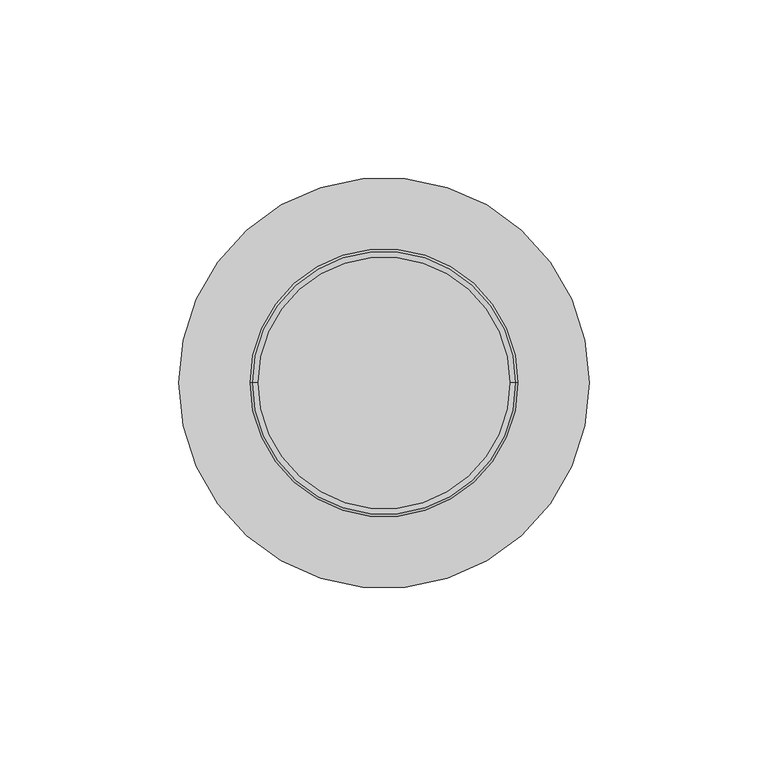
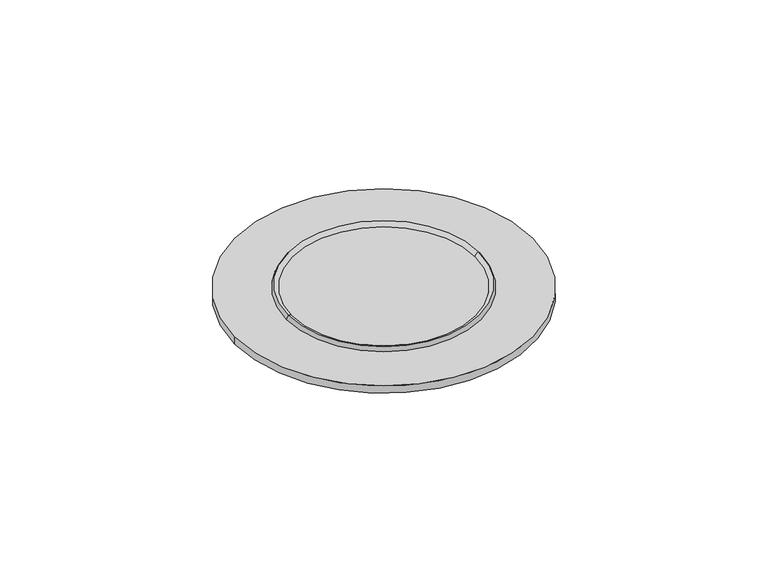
"""IFC4 building model written with IfcOpenShell, lengths in millimetres: light fixture geometry, TECNOLINE-LÁMPARA DE INTERIOR-DOWNLIGHT EMPOTRADA : TECNOLINE-LÁMPARA DE INTERIOR-DOWNLIGHT EMPOTRADA."""

from ifc_helpers import new_model, si_unit, point, frame, origin, origin_with_axes, origin_2d, place, context, project, spatial, circle_curve, ellipse_curve, trimmed, segment, composite_curve, outline, extrude, source, transform, mapped, element, save
from ifc_brep_helpers import plane_surface, revolved_surface, advanced_brep


def light_fixture_93f22e3d(model_context):
    return source(origin(), model_context, "Body", "SolidModel", [
        extrude(outline(composite_curve([segment(trimmed(circle_curve(origin_2d(), 35.2648499), [point((-35.2648499, 0.0))], [point((35.2648499, 0.0))], False, "CARTESIAN"), True, "CONTINUOUS"), segment(trimmed(circle_curve(origin_2d(), 35.2648499), [point((35.2648499, 0.0))], [point((-35.2648499, 0.0))], False, "CARTESIAN"), True, "CONTINUOUS")], self_intersect=False)), frame((0.0, 0.0, 2.410224), z_axis=(0.0, 0.0, 1.0), x_axis=(1.0, 0.0, 0.0)), (0.0, 0.0, 1.0), 0.589776),
        advanced_brep(
        [(35.2648499, 0.0, 3.0), (-35.2648499, 0.0, 3.0), (-36.789189, 0.0, 4.5243391), (36.789189, 0.0, 4.5243391), (-37.5, 0.0, 3.0), (37.5, 0.0, 3.0)],
        [
            (0, 1, circle_curve(frame((0.0, 0.0, 3.0), z_axis=(0.0, 0.0, -1.0), x_axis=(-1.0, 0.0, 0.0)), 35.2648499)),
            (1, 2, circle_curve(frame((-36.789189, 0.0, 3.0), z_axis=(0.0, -1.0, 0.0), x_axis=(-1.0, 0.0, 0.0)), 1.5243391)),
            (2, 3, circle_curve(frame((0.0, 0.0, 4.5243391), z_axis=(0.0, 0.0, 1.0), x_axis=(-1.0, 0.0, 0.0)), 36.789189)),
            (3, 0, circle_curve(frame((36.789189, 0.0, 3.0), z_axis=(0.0, -1.0, 0.0), x_axis=(1.0, 0.0, 0.0)), 1.5243391)),
            (2, 4, circle_curve(frame((-33.8657268, 0.0, 2.2332084), z_axis=(0.0, -1.0, 0.0), x_axis=(-1.0, 0.0, 0.0)), 3.7142847)),
            (4, 5, circle_curve(frame((0.0, 0.0, 3.0), z_axis=(0.0, 0.0, 1.0), x_axis=(-1.0, 0.0, 0.0)), 37.5)),
            (5, 3, circle_curve(frame((33.8657268, 0.0, 2.2332084), z_axis=(0.0, -1.0, 0.0), x_axis=(1.0, 0.0, 0.0)), 3.7142847)),
            (1, 0, circle_curve(frame((0.0, 0.0, 3.0), z_axis=(0.0, 0.0, -1.0), x_axis=(1.0, 0.0, 0.0)), 35.2648499)),
            (3, 2, circle_curve(frame((0.0, 0.0, 4.5243391), z_axis=(0.0, 0.0, 1.0), x_axis=(1.0, 0.0, 0.0)), 36.789189)),
            (4, 5, circle_curve(frame((0.0, 0.0, 3.0), z_axis=(0.0, 0.0, -1.0), x_axis=(1.0, 0.0, 0.0)), 37.5)),
        ],
        [
            revolved_surface(trimmed(ellipse_curve(frame((-36.789189, 0.0, 3.0), z_axis=(0.0, 1.0, 0.0), x_axis=(-1.0, 0.0, 0.0)), 1.5243391, 1.5243391), [point((-36.789189, 0.0, 4.5243391))], [point((-35.2648499, 0.0, 3.0))], True, "CARTESIAN"), (0.0, 0.0, 3.0), (0.0, 0.0, 1.0)),
            revolved_surface(trimmed(ellipse_curve(frame((-33.8657268, 0.0, 2.2332084), z_axis=(0.0, 1.0, 0.0), x_axis=(-1.0, 0.0, 0.0)), 3.7142847, 3.7142847), [point((-37.5, 0.0, 3.0))], [point((-36.789189, 0.0, 4.5243391))], True, "CARTESIAN"), (0.0, 0.0, 3.0), (0.0, 0.0, 1.0)),
            revolved_surface(trimmed(ellipse_curve(frame((36.789189, 0.0, 3.0), z_axis=(0.0, -1.0, 0.0), x_axis=(1.0, 0.0, 0.0)), 1.5243391, 1.5243391), [point((36.789189, 0.0, 4.5243391))], [point((35.2648499, 0.0, 3.0))], True, "CARTESIAN"), (0.0, 0.0, 3.0), (0.0, 0.0, 1.0)),
            plane_surface(frame((0.0, 0.0, 3.0), z_axis=(0.0, 0.0, -1.0), x_axis=(1.0, 0.0, 0.0))),
            revolved_surface(trimmed(ellipse_curve(frame((33.8657268, 0.0, 2.2332084), z_axis=(0.0, -1.0, 0.0), x_axis=(1.0, 0.0, 0.0)), 3.7142847, 3.7142847), [point((37.5, 0.0, 3.0))], [point((36.789189, 0.0, 4.5243391))], True, "CARTESIAN"), (0.0, 0.0, 3.0), (0.0, 0.0, 1.0)),
        ],
        [
            (0, [[1, 2, 3, 4]]),
            (1, [[-3, 5, 6, 7]]),
            (2, [[8, -4, 9, -2]]),
            (3, [[10, -6], [-8, -1]]),
            (4, [[-9, -7, -10, -5]]),
        ],
    ),
        extrude(outline(composite_curve([segment(trimmed(circle_curve(origin_2d(), 57.5), [point((-57.5, 0.0))], [point((57.5, 0.0))], False, "CARTESIAN"), True, "CONTINUOUS"), segment(trimmed(circle_curve(origin_2d(), 57.5), [point((57.5, 0.0))], [point((-57.5, 0.0))], False, "CARTESIAN"), True, "CONTINUOUS")], self_intersect=False), holes=[composite_curve([segment(trimmed(circle_curve(origin_2d(), 37.5), [point((-37.5, 0.0))], [point((37.5, 0.0))], True, "CARTESIAN"), True, "CONTINUOUS"), segment(trimmed(circle_curve(origin_2d(), 37.5), [point((37.5, 0.0))], [point((-37.5, 0.0))], True, "CARTESIAN"), True, "CONTINUOUS")], self_intersect=False)]), origin_with_axes(), (0.0, 0.0, 1.0), 3.0),
    ])


if __name__ == "__main__":
    model = new_model("IFC4")
    model_context = context("Model", 3, world=origin())
    ifc_project = project(units=[si_unit("LENGTHUNIT", "METRE", prefix="MILLI")], contexts=[model_context])
    site = spatial("IfcSite", under=ifc_project)
    building = spatial("IfcBuilding", under=site)
    placement = place(None, origin())
    light_fixture_shape = light_fixture_93f22e3d(model_context)
    element("IfcLightFixture", 1, ObjectType="TECNOLINE-LÁMPARA DE INTERIOR-DOWNLIGHT EMPOTRADA : TECNOLINE-LÁMPARA DE INTERIOR-DOWNLIGHT EMPOTRADA", at=placement, inside=building, context=model_context, shape_type="MappedRepresentation", body=[
        mapped(light_fixture_shape, transform((0.0, 0.0, 0.0), x_axis=(1.0, 0.0, 0.0), y_axis=(0.0, 1.0, 0.0), z_axis=(0.0, 0.0, 1.0))),
    ])
    save(model, "model.ifc")
